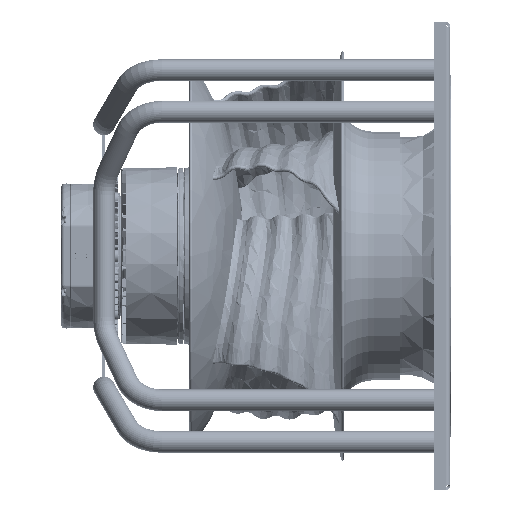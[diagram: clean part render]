
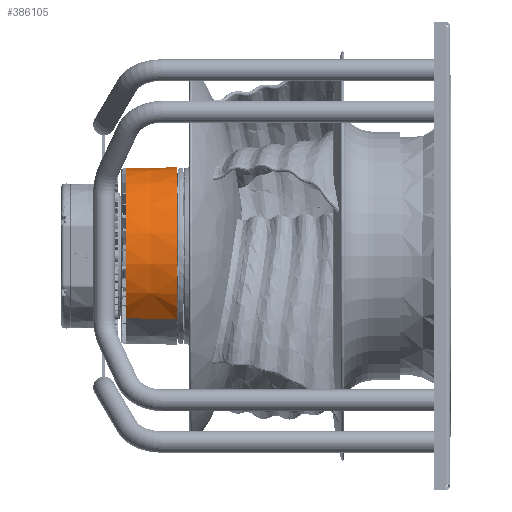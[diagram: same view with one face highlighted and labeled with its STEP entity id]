
A CAD part, front view. The second image highlights one B-rep face of the part: STEP entity #386105.
In plain terms, the highlighted conical face has half-angle 1 degrees and reference radius 138.163 mm.
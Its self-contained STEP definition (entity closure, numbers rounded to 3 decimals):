
#105535=DIRECTION('',(-1.,-0.012,
-0.012));
#105536=VECTOR('',#105535,79.021);
#105537=CARTESIAN_POINT('',(-14.809,98.184,
98.184));
#105538=LINE('',#105537,#105536);
#105544=DIRECTION('',(1.,-0.012,-0.012));
#105545=VECTOR('',#105544,79.021);
#105546=CARTESIAN_POINT('',(-93.817,-97.208,
-97.208));
#105547=LINE('',#105546,#105545);
#105558=CARTESIAN_POINT('',(-14.809,0.,0.));
#105559=DIRECTION('',(-1.,0.,0.));
#105560=DIRECTION('',(0.,-0.707,-0.707));
#105561=AXIS2_PLACEMENT_3D('',#105558,#105559,#105560);
#105563=CARTESIAN_POINT('',(-93.817,0.,0.));
#105564=DIRECTION('',(-1.,0.,0.));
#105565=DIRECTION('',(0.,-0.707,-0.707));
#105566=AXIS2_PLACEMENT_3D('',#105563,#105564,#105565);
#117700=CARTESIAN_POINT('',(-93.817,-97.208,
-97.208));
#117701=CARTESIAN_POINT('',(-93.817,97.208,
97.208));
#117702=VERTEX_POINT('',#117700);
#117703=VERTEX_POINT('',#117701);
#118011=CARTESIAN_POINT('',(-14.809,98.184,
98.184));
#118012=CARTESIAN_POINT('',(-14.809,-98.184,
-98.184));
#118013=VERTEX_POINT('',#118011);
#118014=VERTEX_POINT('',#118012);
#386094=CARTESIAN_POINT('',(-54.313,0.,0.));
#386095=DIRECTION('',(1.,0.,0.));
#386096=DIRECTION('',(0.,-0.707,-0.707));
#386097=AXIS2_PLACEMENT_3D('',#386094,#386095,#386096);
#386098=CONICAL_SURFACE('',#386097,138.163,1.);
#386099=ORIENTED_EDGE('',*,*,#386078,.F.);
#386100=ORIENTED_EDGE('',*,*,#386039,.F.);
#386101=ORIENTED_EDGE('',*,*,#207300,.T.);
#386102=ORIENTED_EDGE('',*,*,#386036,.F.);
#386103=EDGE_LOOP('',(#386099,#386100,#386101,#386102));
#386104=FACE_OUTER_BOUND('',#386103,.F.);
#105562=CIRCLE('',#105561,138.853);
#105567=CIRCLE('',#105566,137.474);
#207300=EDGE_CURVE('',#117702,#117703,#105567,.T.);
#386036=EDGE_CURVE('',#118013,#117703,#105538,.T.);
#386039=EDGE_CURVE('',#117702,#118014,#105547,.T.);
#386078=EDGE_CURVE('',#118014,#118013,#105562,.T.);
#386105=ADVANCED_FACE('',(#386104),#386098,.T.);
